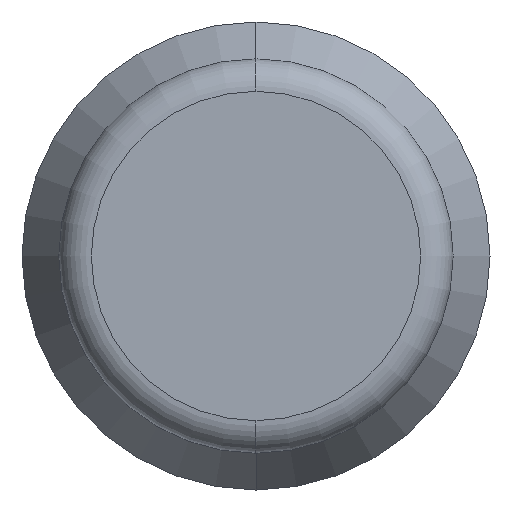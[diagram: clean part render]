
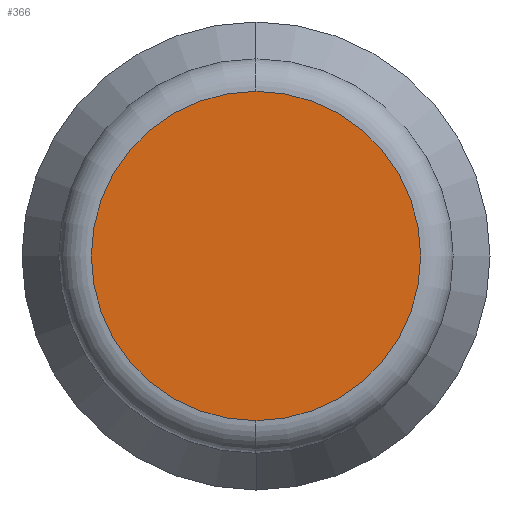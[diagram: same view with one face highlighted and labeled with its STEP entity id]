
A CAD part, left-side view. The second image highlights one B-rep face of the part: STEP entity #366.
In plain terms, the highlighted planar face has unit normal (-1, 0, 0).
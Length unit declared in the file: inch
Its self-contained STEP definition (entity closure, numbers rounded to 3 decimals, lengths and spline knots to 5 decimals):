
#16 = VERTEX_POINT ( 'NONE', #738 ) ;
#139 = AXIS2_PLACEMENT_3D ( 'NONE', #178, #891, #421 ) ;
#153 = AXIS2_PLACEMENT_3D ( 'NONE', #735, #271, #819 ) ;
#174 = PLANE ( 'NONE',  #139 ) ;
#178 = CARTESIAN_POINT ( 'NONE',  ( 0., 0., 0. ) ) ;
#208 = CIRCLE ( 'NONE', #153, 0.038 ) ;
#219 = DIRECTION ( 'NONE',  ( -1., 0., 0. ) ) ;
#271 = DIRECTION ( 'NONE',  ( -1., 0., 0. ) ) ;
#276 = EDGE_CURVE ( 'NONE', #16, #660, #208, .T. ) ;
#294 = AXIS2_PLACEMENT_3D ( 'NONE', #684, #219, #763 ) ;
#366 = ADVANCED_FACE ( 'NONE', ( #692 ), #174, .F. ) ;
#421 = DIRECTION ( 'NONE',  ( 0., 0., -1. ) ) ;
#631 = EDGE_LOOP ( 'NONE', ( #805, #727 ) ) ;
#660 = VERTEX_POINT ( 'NONE', #794 ) ;
#684 = CARTESIAN_POINT ( 'NONE',  ( 0., 0., 0. ) ) ;
#692 = FACE_OUTER_BOUND ( 'NONE', #631, .T. ) ;
#727 = ORIENTED_EDGE ( 'NONE', *, *, #952, .T. ) ;
#735 = CARTESIAN_POINT ( 'NONE',  ( 0., 0., 0. ) ) ;
#738 = CARTESIAN_POINT ( 'NONE',  ( 0., 0., 0.038 ) ) ;
#763 = DIRECTION ( 'NONE',  ( 0., 0., 1. ) ) ;
#794 = CARTESIAN_POINT ( 'NONE',  ( 0., 0., -0.038 ) ) ;
#805 = ORIENTED_EDGE ( 'NONE', *, *, #276, .T. ) ;
#819 = DIRECTION ( 'NONE',  ( 0., 0., 1. ) ) ;
#891 = DIRECTION ( 'NONE',  ( 1., 0., 0. ) ) ;
#952 = EDGE_CURVE ( 'NONE', #660, #16, #1002, .T. ) ;
#1002 = CIRCLE ( 'NONE', #294, 0.038 ) ;
